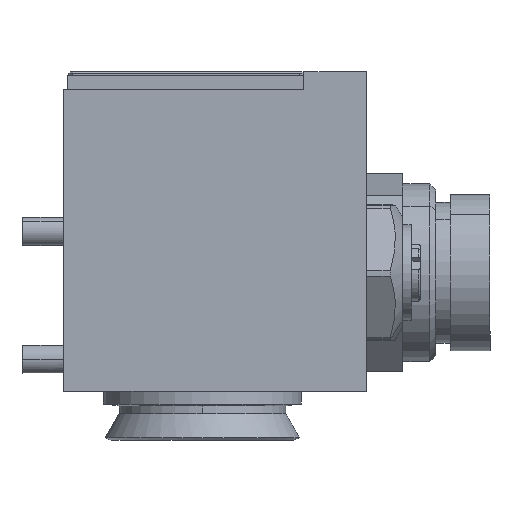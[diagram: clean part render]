
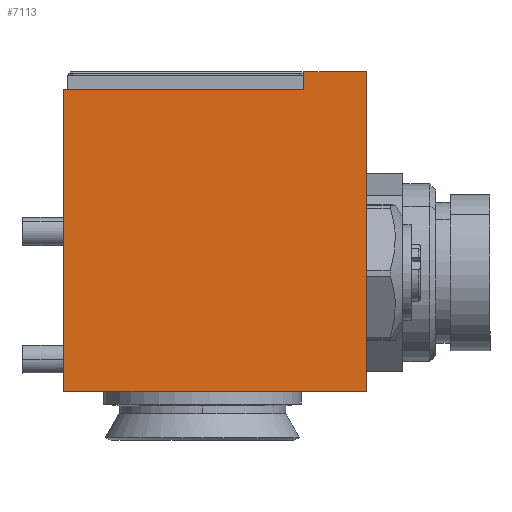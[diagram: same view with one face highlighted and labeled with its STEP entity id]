
A CAD part, front view. The second image highlights one B-rep face of the part: STEP entity #7113.
In plain terms, the highlighted planar face has unit normal (0, -1, 0).
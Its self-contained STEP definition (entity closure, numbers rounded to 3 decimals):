
#382 = CARTESIAN_POINT ( 'NONE',  ( 32.017, -75.407, -17.75 ) ) ;
#626 = VECTOR ( 'NONE', #1218, 1000. ) ;
#821 = ORIENTED_EDGE ( 'NONE', *, *, #21559, .F. ) ;
#881 = LINE ( 'NONE', #29857, #9463 ) ;
#1008 = CARTESIAN_POINT ( 'NONE',  ( 65.817, -75.407, 24.75 ) ) ;
#1218 = DIRECTION ( 'NONE',  ( 0., 0., 1. ) ) ;
#2586 = ORIENTED_EDGE ( 'NONE', *, *, #26731, .F. ) ;
#3324 = VECTOR ( 'NONE', #17534, 1000. ) ;
#3345 = CARTESIAN_POINT ( 'NONE',  ( 74.617, -75.407, -17.75 ) ) ;
#3490 = VECTOR ( 'NONE', #26630, 1000. ) ;
#3792 = LINE ( 'NONE', #26794, #22107 ) ;
#4049 = CARTESIAN_POINT ( 'NONE',  ( 74.617, -75.407, -17.75 ) ) ;
#4240 = LINE ( 'NONE', #29226, #3490 ) ;
#4452 = VERTEX_POINT ( 'NONE', #382 ) ;
#5270 = VERTEX_POINT ( 'NONE', #8562 ) ;
#7113 = ADVANCED_FACE ( 'NONE', ( #19385 ), #11280, .T. ) ;
#8562 = CARTESIAN_POINT ( 'NONE',  ( 32.017, -75.407, 24.75 ) ) ;
#9463 = VECTOR ( 'NONE', #17881, 1000. ) ;
#10129 = ORIENTED_EDGE ( 'NONE', *, *, #25851, .T. ) ;
#10462 = VECTOR ( 'NONE', #30125, 1000. ) ;
#10603 = ORIENTED_EDGE ( 'NONE', *, *, #11233, .T. ) ;
#11233 = EDGE_CURVE ( 'NONE', #15641, #16233, #11507, .T. ) ;
#11280 = PLANE ( 'NONE',  #16395 ) ;
#11507 = LINE ( 'NONE', #3345, #3324 ) ;
#11719 = CARTESIAN_POINT ( 'NONE',  ( 74.617, -75.407, 27.25 ) ) ;
#12461 = DIRECTION ( 'NONE',  ( 0., 0., 1. ) ) ;
#12574 = CARTESIAN_POINT ( 'NONE',  ( 65.817, -75.407, 24.75 ) ) ;
#12798 = EDGE_CURVE ( 'NONE', #5270, #26785, #4240, .T. ) ;
#14773 = CARTESIAN_POINT ( 'NONE',  ( 65.817, -75.407, 27.25 ) ) ;
#15641 = VERTEX_POINT ( 'NONE', #18761 ) ;
#16233 = VERTEX_POINT ( 'NONE', #11719 ) ;
#16395 = AXIS2_PLACEMENT_3D ( 'NONE', #4049, #20731, #18238 ) ;
#17534 = DIRECTION ( 'NONE',  ( 0., 0., 1. ) ) ;
#17881 = DIRECTION ( 'NONE',  ( 1., 0., 0. ) ) ;
#18238 = DIRECTION ( 'NONE',  ( 0., 0., -1. ) ) ;
#18711 = LINE ( 'NONE', #30228, #10462 ) ;
#18761 = CARTESIAN_POINT ( 'NONE',  ( 74.617, -75.407, -17.75 ) ) ;
#19385 = FACE_OUTER_BOUND ( 'NONE', #22768, .T. ) ;
#19547 = EDGE_CURVE ( 'NONE', #21507, #16233, #18711, .T. ) ;
#20731 = DIRECTION ( 'NONE',  ( 0., -1., 0. ) ) ;
#21507 = VERTEX_POINT ( 'NONE', #14773 ) ;
#21559 = EDGE_CURVE ( 'NONE', #26785, #21507, #24187, .T. ) ;
#22107 = VECTOR ( 'NONE', #12461, 1000. ) ;
#22768 = EDGE_LOOP ( 'NONE', ( #821, #23768, #2586, #10129, #10603, #25211 ) ) ;
#23768 = ORIENTED_EDGE ( 'NONE', *, *, #12798, .F. ) ;
#24187 = LINE ( 'NONE', #1008, #626 ) ;
#25211 = ORIENTED_EDGE ( 'NONE', *, *, #19547, .F. ) ;
#25851 = EDGE_CURVE ( 'NONE', #4452, #15641, #881, .T. ) ;
#26630 = DIRECTION ( 'NONE',  ( 1., 0., 0. ) ) ;
#26731 = EDGE_CURVE ( 'NONE', #4452, #5270, #3792, .T. ) ;
#26785 = VERTEX_POINT ( 'NONE', #12574 ) ;
#26794 = CARTESIAN_POINT ( 'NONE',  ( 32.017, -75.407, -17.75 ) ) ;
#29226 = CARTESIAN_POINT ( 'NONE',  ( 32.017, -75.407, 24.75 ) ) ;
#29857 = CARTESIAN_POINT ( 'NONE',  ( 74.617, -75.407, -17.75 ) ) ;
#30125 = DIRECTION ( 'NONE',  ( 1., 0., 0. ) ) ;
#30228 = CARTESIAN_POINT ( 'NONE',  ( 74.617, -75.407, 27.25 ) ) ;
